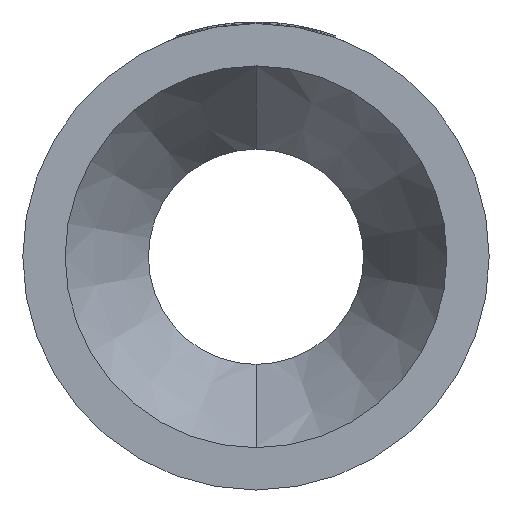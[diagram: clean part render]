
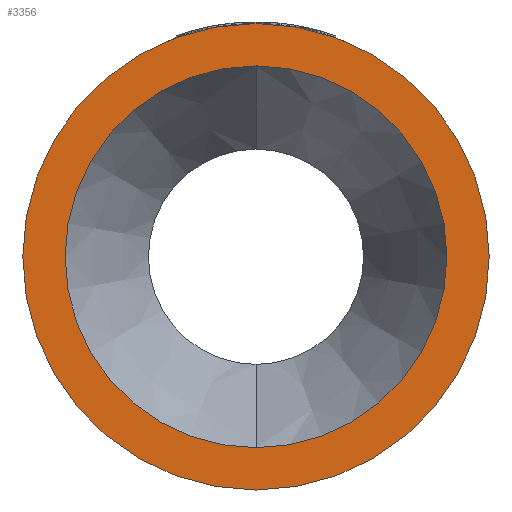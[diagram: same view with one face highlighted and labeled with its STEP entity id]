
A CAD part, left-side view. The second image highlights one B-rep face of the part: STEP entity #3356.
In plain terms, the highlighted planar face has unit normal (-1, 0, 0).
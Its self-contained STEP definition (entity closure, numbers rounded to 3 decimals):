
#4 = CARTESIAN_POINT ( 'NONE',  ( 0., 0., -57.3 ) ) ;
#13 = DIRECTION ( 'NONE',  ( 0., 0., 1. ) ) ;
#15 = DIRECTION ( 'NONE',  ( -1., 0., 0. ) ) ;
#16 = EDGE_CURVE ( 'NONE', #2027, #406, #2487, .T. ) ;
#22 = CARTESIAN_POINT ( 'NONE',  ( 0., 0., 0. ) ) ;
#61 = AXIS2_PLACEMENT_3D ( 'NONE', #22, #15, #13 ) ;
#312 = ORIENTED_EDGE ( 'NONE', *, *, #1810, .T. ) ;
#393 = DIRECTION ( 'NONE',  ( 0., 0., 1. ) ) ;
#406 = VERTEX_POINT ( 'NONE', #2151 ) ;
#407 = DIRECTION ( 'NONE',  ( -1., 0., 0. ) ) ;
#431 = CARTESIAN_POINT ( 'NONE',  ( 0., 0., 0. ) ) ;
#492 = AXIS2_PLACEMENT_3D ( 'NONE', #636, #635, #631 ) ;
#631 = DIRECTION ( 'NONE',  ( 0., 0., 1. ) ) ;
#635 = DIRECTION ( 'NONE',  ( -1., 0., 0. ) ) ;
#636 = CARTESIAN_POINT ( 'NONE',  ( 0., 0., 0. ) ) ;
#874 = ORIENTED_EDGE ( 'NONE', *, *, #2253, .T. ) ;
#900 = CIRCLE ( 'NONE', #492, 70. ) ;
#1034 = CIRCLE ( 'NONE', #61, 57.3 ) ;
#1329 = ORIENTED_EDGE ( 'NONE', *, *, #16, .F. ) ;
#1332 = ORIENTED_EDGE ( 'NONE', *, *, #2005, .F. ) ;
#1523 = EDGE_LOOP ( 'NONE', ( #312, #874 ) ) ;
#1588 = CARTESIAN_POINT ( 'NONE',  ( 0., 0., -70. ) ) ;
#1703 = DIRECTION ( 'NONE',  ( 0., 0., -1. ) ) ;
#1717 = AXIS2_PLACEMENT_3D ( 'NONE', #2627, #2615, #2568 ) ;
#1737 = DIRECTION ( 'NONE',  ( 1., 0., 0. ) ) ;
#1800 = CARTESIAN_POINT ( 'NONE',  ( 0., 57.3, 0. ) ) ;
#1810 = EDGE_CURVE ( 'NONE', #2807, #2314, #900, .T. ) ;
#1966 = PLANE ( 'NONE',  #2521 ) ;
#2005 = EDGE_CURVE ( 'NONE', #406, #2027, #1034, .T. ) ;
#2027 = VERTEX_POINT ( 'NONE', #4 ) ;
#2151 = CARTESIAN_POINT ( 'NONE',  ( 0., 0., 57.3 ) ) ;
#2253 = EDGE_CURVE ( 'NONE', #2314, #2807, #2873, .T. ) ;
#2314 = VERTEX_POINT ( 'NONE', #1588 ) ;
#2487 = CIRCLE ( 'NONE', #1717, 57.3 ) ;
#2521 = AXIS2_PLACEMENT_3D ( 'NONE', #1800, #1737, #1703 ) ;
#2568 = DIRECTION ( 'NONE',  ( 0., 0., 1. ) ) ;
#2615 = DIRECTION ( 'NONE',  ( -1., 0., 0. ) ) ;
#2627 = CARTESIAN_POINT ( 'NONE',  ( 0., 0., 0. ) ) ;
#2649 = FACE_OUTER_BOUND ( 'NONE', #1523, .T. ) ;
#2807 = VERTEX_POINT ( 'NONE', #2927 ) ;
#2873 = CIRCLE ( 'NONE', #3234, 70. ) ;
#2927 = CARTESIAN_POINT ( 'NONE',  ( 0., 0., 70. ) ) ;
#3087 = FACE_BOUND ( 'NONE', #3405, .T. ) ;
#3234 = AXIS2_PLACEMENT_3D ( 'NONE', #431, #407, #393 ) ;
#3356 = ADVANCED_FACE ( 'NONE', ( #3087, #2649 ), #1966, .F. ) ;
#3405 = EDGE_LOOP ( 'NONE', ( #1332, #1329 ) ) ;
